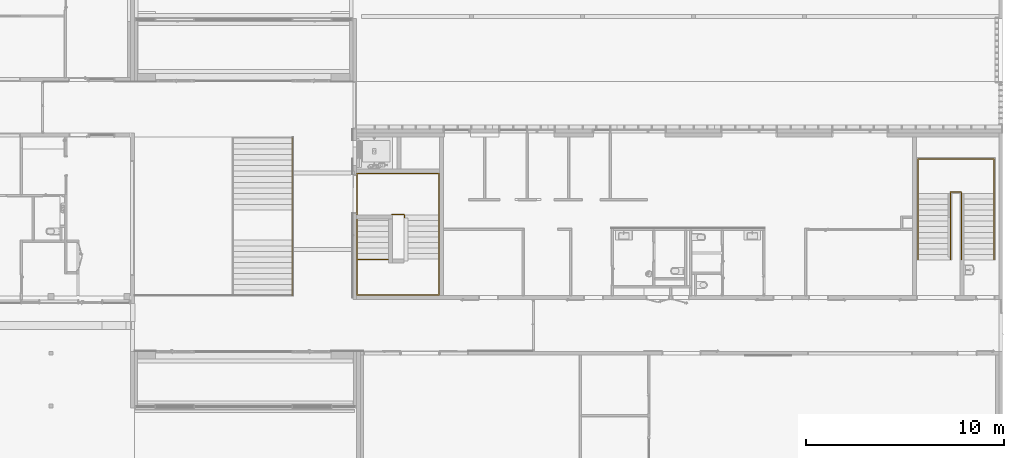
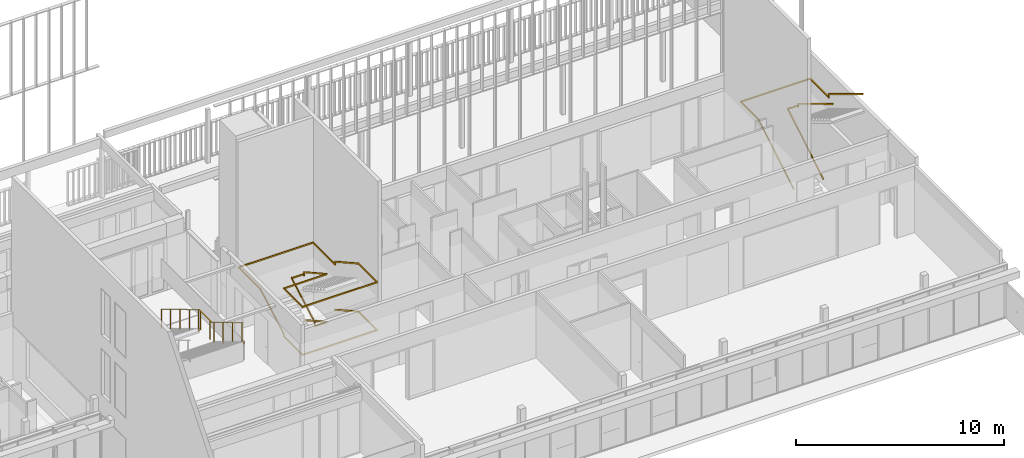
# One storey, part 235 of 240: 4 railings, 3 elements without a shape of their own.
"""IFC2X3 building model written with IfcOpenShell, lengths in centimetres."""

from ifc_helpers import new_model, entity, si_unit, converted_unit, derived_unit, direction, frame, origin, place, context, subcontext, project, spatial, faceted_brep, material, element, aggregate, save


model = new_model("IFC2X3")

# Units and contexts
model_context = context("Model", 3, precision=0.001, world=origin(), true_north=direction((6.12303176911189e-17, 1.0)))
body_context = subcontext(model_context, "Body", "Model", "MODEL_VIEW")
ifc_project = project(units=[si_unit("LENGTHUNIT", "METRE", prefix="CENTI"), si_unit("AREAUNIT", "SQUARE_METRE"), si_unit("VOLUMEUNIT", "CUBIC_METRE"), converted_unit("PLANEANGLEUNIT", "DEGREE", entity("IfcRatioMeasure", 0.0174532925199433), si_unit("PLANEANGLEUNIT", "RADIAN"), dimensions=[0, 0, 0, 0, 0, 0, 0]), si_unit("MASSUNIT", "GRAM", prefix="KILO"), derived_unit("MASSDENSITYUNIT", [(si_unit("MASSUNIT", "GRAM", prefix="KILO"), 1), (si_unit("LENGTHUNIT", "METRE"), -3)]), si_unit("TIMEUNIT", "SECOND"), si_unit("FREQUENCYUNIT", "HERTZ"), si_unit("THERMODYNAMICTEMPERATUREUNIT", "DEGREE_CELSIUS"), derived_unit("THERMALTRANSMITTANCEUNIT", [(si_unit("MASSUNIT", "GRAM", prefix="KILO"), 1), (si_unit("THERMODYNAMICTEMPERATUREUNIT", "KELVIN"), -1), (si_unit("TIMEUNIT", "SECOND"), -3)]), derived_unit("VOLUMETRICFLOWRATEUNIT", [(si_unit("LENGTHUNIT", "METRE"), 3), (si_unit("TIMEUNIT", "SECOND"), -1)]), si_unit("ELECTRICCURRENTUNIT", "AMPERE"), si_unit("ELECTRICVOLTAGEUNIT", "VOLT"), si_unit("POWERUNIT", "WATT"), si_unit("FORCEUNIT", "NEWTON", prefix="KILO"), si_unit("ILLUMINANCEUNIT", "LUX"), si_unit("LUMINOUSFLUXUNIT", "LUMEN"), si_unit("LUMINOUSINTENSITYUNIT", "CANDELA"), derived_unit("USERDEFINED", [(si_unit("MASSUNIT", "GRAM", prefix="KILO"), -1), (si_unit("LENGTHUNIT", "METRE"), -2), (si_unit("TIMEUNIT", "SECOND"), 3), (si_unit("LUMINOUSFLUXUNIT", "LUMEN"), 1)]), derived_unit("LINEARVELOCITYUNIT", [(si_unit("LENGTHUNIT", "METRE"), 1), (si_unit("TIMEUNIT", "SECOND"), -1)]), si_unit("PRESSUREUNIT", "PASCAL"), derived_unit("USERDEFINED", [(si_unit("LENGTHUNIT", "METRE"), -2), (si_unit("MASSUNIT", "GRAM", prefix="KILO"), 1), (si_unit("TIMEUNIT", "SECOND"), -2)])], contexts=[model_context])

# Site, building, storey
site_placement = place(None, frame((-2781.94577612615, 7442.24238424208, 0.0)))
site = spatial("IfcSite", under=ifc_project, at=site_placement, Name="Default", CompositionType="ELEMENT")
building_placement = place(site_placement, origin())
building = spatial("IfcBuilding", under=site, at=building_placement, CompositionType="ELEMENT")
storey_placement = place(building_placement, origin())
storey = spatial("IfcBuildingStorey", under=building, at=storey_placement, Name="N00 - COO", CompositionType="ELEMENT", Elevation=0.0)

# Stair, railings
stair_1_placement = place(building_placement, origin())
stair_1 = element("IfcStair", 1, at=stair_1_placement, inside=storey, Name="Escalier coulé sur place:Escalier", ObjectType="Escalier coulé sur place:Monobloc", ShapeType="NOTDEFINED")
railing_1_placement = place(stair_1_placement, frame((-820.299882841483, -1730.07903364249, 97.982408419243)))
railing_1 = element("IfcRailing", 2, at=railing_1_placement, Name="Garde-corps:Garde-corps 1", ObjectType="Garde-corps:Garde-corps 1", PredefinedType="NOTDEFINED", context=body_context, shape_type="Brep", body=[
    faceted_brep([(384.92, 0.0, 430.897591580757), (384.92, 0.0, 422.0), (390.0, 0.0, 422.0), (390.0, 0.0, 430.897591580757), (384.920000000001, 332.19, 230.634477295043), (384.920000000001, 324.57, 226.330657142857), (390.0, 324.57, 226.330657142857), (390.0, 332.19, 230.634477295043), (384.920000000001, 324.570000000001, 203.837591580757), (384.920000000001, 332.190000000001, 211.457591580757), (384.920000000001, 505.920000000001, 211.457591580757), (384.920000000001, 505.920000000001, 203.837591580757), (390.0, 324.570000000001, 203.837591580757), (390.0, 511.0, 203.837591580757), (390.0, 332.190000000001, 211.457591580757), (390.0, 511.0, 211.457591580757), (5.08000000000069, 505.920000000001, 211.457591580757), (5.08000000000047, 505.920000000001, 203.837591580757), (0.0, 511.0, 203.837591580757), (0.0, 511.0, 211.457591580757), (5.08000000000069, 336.0, 211.457591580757), (5.08000000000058, 338.119227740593, 203.837591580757), (0.0, 338.119227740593, 203.837591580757), (0.0, 336.0, 211.457591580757), (5.08000000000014, 0.0, 8.89759158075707), (0.0, 0.0, 8.89759158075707), (0.0, 0.0, 0.0), (5.08000000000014, 0.0, 0.0)], [[[0, 1, 2, 3]], [[1, 0, 4, 5]], [[2, 1, 5, 6]], [[3, 2, 6, 7]], [[0, 3, 7, 4]], [[8, 9, 10, 11]], [[12, 8, 11, 13]], [[14, 12, 13, 15]], [[9, 14, 15, 10]], [[11, 10, 16, 17]], [[13, 11, 17, 18]], [[15, 13, 18, 19]], [[10, 15, 19, 16]], [[17, 16, 20, 21]], [[18, 17, 21, 22]], [[19, 18, 22, 23]], [[16, 19, 23, 20]], [[24, 25, 26, 27]], [[21, 20, 24, 27]], [[22, 21, 27, 26]], [[23, 22, 26, 25]], [[20, 23, 25, 24]], [[5, 4, 9, 8]], [[6, 5, 8, 12]], [[7, 6, 12, 14]], [[4, 7, 14, 9]]]),
])
railing_2_placement = place(stair_1_placement, frame((-655.379882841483, -1730.07903364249, 97.982408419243)))
railing_2 = element("IfcRailing", 3, at=railing_2_placement, Name="Garde-corps:Garde-corps 1", ObjectType="Garde-corps:Garde-corps 1", PredefinedType="NOTDEFINED", context=body_context, shape_type="Brep", body=[
    faceted_brep([(60.160000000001, 0.0, 430.897591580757), (55.0800000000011, 0.0, 430.897591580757), (55.0800000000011, 0.0, 422.0), (60.160000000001, 0.0, 422.0), (60.1600000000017, 339.729999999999, 226.088934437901), (55.0800000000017, 339.729999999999, 226.088934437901), (55.0800000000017, 332.109999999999, 221.785114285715), (60.1600000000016, 332.109999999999, 221.785114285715), (60.1600000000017, 339.729999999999, 203.837591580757), (60.1600000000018, 332.109999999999, 203.837591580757), (55.0800000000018, 332.109999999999, 203.837591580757), (55.0800000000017, 339.729999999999, 203.837591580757)], [[[0, 1, 2, 3]], [[1, 0, 4, 5]], [[2, 1, 5, 6]], [[3, 2, 6, 7]], [[0, 3, 7, 4]], [[8, 9, 10, 11]], [[5, 4, 8, 11]], [[6, 5, 11, 10]], [[7, 6, 10, 9]], [[4, 7, 9, 8]]]),
    faceted_brep([(57.6200000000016, 346.079999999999, 211.457591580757), (57.6200000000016, 341.0, 211.457591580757), (57.6200000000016, 341.0, 203.837591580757), (57.6200000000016, 346.079999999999, 203.837591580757), (0.0, 346.080000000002, 211.457591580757), (5.08000000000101, 341.0, 211.457591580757), (5.08000000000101, 341.0, 203.837591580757), (0.0, 346.080000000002, 203.837591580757), (0.0, 0.0, 8.89759158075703), (0.0, 0.0, 0.0), (5.08000000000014, 0.0, 0.0), (5.08000000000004, 0.0, 8.89759158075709), (5.08000000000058, 336.0, 211.457591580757), (0.0, 336.0, 211.457591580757), (5.08000000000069, 338.119227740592, 203.837591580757), (0.0, 338.119227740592, 203.837591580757)], [[[0, 1, 2, 3]], [[1, 0, 4, 5]], [[2, 1, 5, 6]], [[3, 2, 6, 7]], [[0, 3, 7, 4]], [[8, 9, 10, 11]], [[12, 13, 8, 11]], [[14, 12, 11, 10]], [[15, 14, 10, 9]], [[13, 15, 9, 8]], [[5, 4, 13, 12]], [[6, 5, 12, 14]], [[7, 6, 14, 15]], [[4, 7, 15, 13]]]),
])
aggregate(stair_1, [railing_1, railing_2])

# Stair, railing
stair_2_placement = place(storey_placement, origin())
stair_2 = element("IfcStair", 4, at=stair_2_placement, inside=storey, Name="Escalier coulé sur place:Escalier", ObjectType="Escalier coulé sur place:Monobloc", ShapeType="NOTDEFINED")
ifc_material = material(Name="Métal - Acier inoxydable, poli")
railing_3_placement = place(stair_2_placement, frame((-3975.03987968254, -1910.47903364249, 16.8799999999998)))
railing_3 = element("IfcRailing", 5, at=railing_3_placement, material=ifc_material, Name="Garde-corps:Garde corps 1A0cmHT", ObjectType="Garde-corps:Garde corps 1A0cmHT", PredefinedType="NOTDEFINED", context=body_context, shape_type="Brep", body=[
    faceted_brep([(0.0, 18.7999999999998, 388.24), (0.0, 18.7999999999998, 503.443597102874), (0.0, 20.0, 502.720168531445), (0.0, 20.0, 388.24), (5.0, 18.7999999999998, 388.24), (5.0, 20.0, 388.24), (5.0, 20.0, 502.720168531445), (5.0, 18.7999999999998, 503.443597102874)], [[[0, 1, 2, 3]], [[4, 5, 6, 7]], [[3, 5, 4, 0]], [[2, 6, 5, 3]], [[1, 7, 6, 2]], [[0, 4, 7, 1]]]),
    faceted_brep([(0.0, 108.8, 337.6), (0.0, 108.8, 449.186454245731), (0.0, 110.0, 448.463025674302), (0.0, 110.0, 337.6), (5.0, 108.8, 337.6), (5.0, 110.0, 337.6), (5.0, 110.0, 448.463025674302), (5.0, 108.8, 449.186454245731)], [[[0, 1, 2, 3]], [[4, 5, 6, 7]], [[3, 5, 4, 0]], [[2, 6, 5, 3]], [[1, 7, 6, 2]], [[0, 4, 7, 1]]]),
    faceted_brep([(0.0, 198.8, 270.08), (0.0, 198.8, 394.929311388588), (0.0, 200.0, 394.205882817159), (0.0, 200.0, 270.08), (5.0, 198.8, 270.08), (5.0, 200.0, 270.08), (5.0, 200.0, 394.205882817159), (5.0, 198.8, 394.929311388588)], [[[0, 1, 2, 3]], [[4, 5, 6, 7]], [[3, 5, 4, 0]], [[2, 6, 5, 3]], [[1, 7, 6, 2]], [[0, 4, 7, 1]]]),
    faceted_brep([(0.0, 288.8, 219.44), (0.0, 288.8, 340.672168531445), (0.0, 290.0, 339.948739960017), (0.0, 290.0, 219.44), (5.0, 288.8, 219.44), (5.0, 290.0, 219.44), (5.0, 290.0, 339.948739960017), (5.0, 288.8, 340.672168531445)], [[[0, 1, 2, 3]], [[4, 5, 6, 7]], [[3, 5, 4, 0]], [[2, 6, 5, 3]], [[1, 7, 6, 2]], [[0, 4, 7, 1]]]),
    faceted_brep([(0.0, 324.839516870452, 219.44), (0.0, 324.839516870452, 328.94), (0.0, 326.039516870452, 328.94), (0.0, 326.039516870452, 219.44), (5.0, 324.839516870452, 219.44), (5.0, 326.039516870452, 219.44), (5.0, 326.039516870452, 328.94), (5.0, 324.839516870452, 328.94)], [[[0, 1, 2, 3]], [[4, 5, 6, 7]], [[3, 5, 4, 0]], [[2, 6, 5, 3]], [[1, 7, 6, 2]], [[0, 4, 7, 1]]]),
    faceted_brep([(0.0, 414.839516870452, 219.44), (0.0, 414.839516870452, 328.94), (0.0, 416.039516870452, 328.94), (0.0, 416.039516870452, 219.44), (5.0, 414.839516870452, 219.44), (5.0, 416.039516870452, 219.44), (5.0, 416.039516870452, 328.94), (5.0, 414.839516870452, 328.94)], [[[0, 1, 2, 3]], [[4, 5, 6, 7]], [[3, 5, 4, 0]], [[2, 6, 5, 3]], [[1, 7, 6, 2]], [[0, 4, 7, 1]]]),
    faceted_brep([(0.0, 433.879033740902, 202.56), (0.0, 433.879033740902, 328.012168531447), (0.0, 435.079033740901, 327.288739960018), (0.0, 435.079033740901, 202.56), (5.0, 433.879033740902, 202.56), (5.0, 435.079033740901, 202.56), (5.0, 435.079033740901, 327.288739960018), (5.0, 433.879033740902, 328.012168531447)], [[[0, 1, 2, 3]], [[4, 5, 6, 7]], [[3, 5, 4, 0]], [[2, 6, 5, 3]], [[1, 7, 6, 2]], [[0, 4, 7, 1]]]),
    faceted_brep([(0.0, 523.879033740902, 151.92), (0.0, 523.879033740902, 273.755025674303), (0.0, 525.079033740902, 273.031597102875), (0.0, 525.079033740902, 151.92), (5.0, 523.879033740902, 151.92), (5.0, 525.079033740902, 151.92), (5.0, 525.079033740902, 273.031597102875), (5.0, 523.879033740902, 273.755025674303)], [[[0, 1, 2, 3]], [[4, 5, 6, 7]], [[3, 5, 4, 0]], [[2, 6, 5, 3]], [[1, 7, 6, 2]], [[0, 4, 7, 1]]]),
    faceted_brep([(0.0, 613.879033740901, 101.28), (0.0, 613.879033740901, 219.49788281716), (0.0, 615.079033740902, 218.774454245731), (0.0, 615.079033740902, 101.28), (5.0, 613.879033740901, 101.28), (5.0, 615.079033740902, 101.28), (5.0, 615.079033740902, 218.774454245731), (5.0, 613.879033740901, 219.49788281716)], [[[0, 1, 2, 3]], [[4, 5, 6, 7]], [[3, 5, 4, 0]], [[2, 6, 5, 3]], [[1, 7, 6, 2]], [[0, 4, 7, 1]]]),
    faceted_brep([(0.0, 703.879033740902, 50.64), (0.0, 703.879033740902, 165.240739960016), (0.0, 705.079033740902, 164.517311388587), (0.0, 705.079033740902, 50.64), (5.0, 703.879033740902, 50.64), (5.0, 705.079033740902, 50.64), (5.0, 705.079033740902, 164.517311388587), (5.0, 703.879033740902, 165.240739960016)], [[[0, 1, 2, 3]], [[4, 5, 6, 7]], [[3, 5, 4, 0]], [[2, 6, 5, 3]], [[1, 7, 6, 2]], [[0, 4, 7, 1]]]),
    faceted_brep([(0.0, 793.879033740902, 0.0), (0.0, 793.879033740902, 110.983597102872), (0.0, 795.079033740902, 110.260168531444), (0.0, 795.079033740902, 0.0), (5.0, 793.879033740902, 0.0), (5.0, 795.079033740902, 0.0), (5.0, 795.079033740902, 110.260168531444), (5.0, 793.879033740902, 110.983597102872)], [[[0, 1, 2, 3]], [[4, 5, 6, 7]], [[3, 5, 4, 0]], [[2, 6, 5, 3]], [[1, 7, 6, 2]], [[0, 4, 7, 1]]]),
    faceted_brep([(0.0, 431.879033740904, 202.56), (0.0, 431.879033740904, 219.440000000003), (0.0, 433.079033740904, 219.440000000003), (0.0, 433.079033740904, 202.56), (5.0, 431.879033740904, 202.56), (5.0, 433.079033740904, 202.56), (5.0, 433.079033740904, 219.440000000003), (5.0, 431.879033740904, 219.440000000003)], [[[0, 1, 2, 3]], [[4, 5, 6, 7]], [[3, 5, 4, 0]], [[2, 6, 5, 3]], [[1, 7, 6, 2]], [[0, 4, 7, 1]]]),
    faceted_brep([(0.0, 0.0, 388.24), (0.0, 0.0, 404.999428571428), (0.0, 1.19999999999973, 404.999428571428), (0.0, 1.19999999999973, 388.24), (5.0, 0.0, 388.24), (5.0, 1.19999999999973, 388.24), (5.0, 1.19999999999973, 404.999428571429), (5.0, 0.0, 404.999428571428)], [[[0, 1, 2, 3]], [[4, 5, 6, 7]], [[3, 5, 4, 0]], [[2, 6, 5, 3]], [[1, 7, 6, 2]], [[0, 4, 7, 1]]]),
    faceted_brep([(0.0, 795.679033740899, 0.0), (0.0, 795.679033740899, 0.120571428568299), (0.0, 796.879033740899, 0.120571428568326), (0.0, 796.879033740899, 0.0), (5.0, 795.679033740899, 0.0), (5.0, 796.879033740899, 0.0), (5.0, 796.879033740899, 0.12057142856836), (5.0, 795.679033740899, 0.120571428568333)], [[[0, 1, 2, 3]], [[4, 5, 6, 7]], [[3, 5, 4, 0]], [[2, 6, 5, 3]], [[1, 7, 6, 2]], [[0, 4, 7, 1]]]),
    faceted_brep([(5.0, 796.4790337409, 109.41616853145), (0.0, 796.4790337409, 109.41616853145), (0.0, 796.4790337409, 110.583831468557), (5.0, 796.4790337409, 110.583831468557), (5.0, 432.339976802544, 328.939999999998), (0.0, 432.339976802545, 328.939999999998), (0.0, 432.618090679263, 329.939999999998), (5.0, 308.260943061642, 328.94), (0.0, 308.260943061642, 328.94), (0.0, 308.53905693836, 329.94), (5.0, 0.400000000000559, 514.536168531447), (5.0, 0.400000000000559, 515.703831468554), (0.0, 0.400000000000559, 515.703831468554), (0.0, 0.400000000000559, 514.536168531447), (5.0, 432.618090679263, 329.939999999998), (5.0, 308.53905693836, 329.94)], [[[0, 1, 2, 3]], [[1, 0, 4, 5]], [[2, 1, 5, 6]], [[5, 4, 7, 8]], [[6, 5, 8, 9]], [[10, 11, 12, 13]], [[8, 7, 10, 13]], [[9, 8, 13, 12]], [[3, 2, 6, 14]], [[0, 3, 14, 4]], [[14, 6, 9, 15]], [[4, 14, 15, 7]], [[15, 9, 12, 11]], [[7, 15, 11, 10]]]),
])
aggregate(stair_2, [railing_3])

stair_3_placement = place(building_placement, origin())
stair_3 = element("IfcStair", 6, at=stair_3_placement, inside=storey, Name="Escalier coulé sur place:Escalier", ObjectType="Escalier coulé sur place:Monobloc", ShapeType="NOTDEFINED")
railing_4_placement = place(stair_3_placement, frame((-3647.99987968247, -1910.07903364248, 96.9028550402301)))
railing_4 = element("IfcRailing", 7, at=railing_4_placement, Name="Garde-corps:Garde-corps 1", ObjectType="Garde-corps:Garde-corps 1", PredefinedType="NOTDEFINED", context=body_context, shape_type="Brep", body=[
    faceted_brep([(413.619996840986, 408.0, 8.72677458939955), (418.699996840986, 408.0, 8.72677458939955), (418.699996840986, 408.0, 0.0), (413.619996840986, 408.0, 0.0), (413.619996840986, 184.0, 133.763811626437), (418.699996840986, 184.0, 133.763811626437), (418.699996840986, 182.017247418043, 126.143811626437), (413.619996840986, 182.017247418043, 126.143811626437), (413.619996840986, 5.08000000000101, 133.763811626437), (418.699996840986, 0.0, 133.763811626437), (418.699996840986, 0.0, 126.143811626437), (413.619996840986, 5.08000000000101, 126.143811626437), (5.07999999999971, 5.08000000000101, 133.763811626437), (0.0, 0.0, 133.763811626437), (0.0, 0.0, 126.143811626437), (5.07999999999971, 5.08000000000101, 126.143811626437), (5.07999999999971, 180.190000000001, 133.763811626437), (0.0, 180.190000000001, 133.763811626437), (0.0, 187.81, 126.143811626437), (5.07999999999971, 187.81, 126.143811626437), (5.07999999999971, 180.190000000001, 147.26669522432), (0.0, 180.190000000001, 147.26669522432), (0.0, 187.810000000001, 142.793412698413), (5.07999999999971, 187.810000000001, 142.793412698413), (5.07999999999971, 408.0, 274.430478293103), (0.0, 408.0, 274.430478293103), (0.0, 409.982752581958, 266.810478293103), (5.08000000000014, 409.982752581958, 266.810478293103), (5.07999999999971, 614.920000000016, 274.430478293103), (0.0, 620.0, 274.430478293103), (0.0, 620.0, 266.810478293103), (5.07999999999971, 614.920000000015, 266.810478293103), (413.619996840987, 614.920000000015, 274.430478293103), (418.699996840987, 620.0, 274.430478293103), (418.699996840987, 620.0, 266.810478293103), (413.619996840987, 614.920000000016, 266.810478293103), (413.619996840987, 411.810000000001, 274.430478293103), (418.699996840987, 411.810000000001, 274.430478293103), (418.699996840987, 404.190000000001, 266.810478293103), (413.619996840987, 404.190000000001, 266.810478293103), (413.619996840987, 411.810000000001, 287.933361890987), (418.699996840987, 411.810000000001, 287.933361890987), (418.699996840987, 404.19, 283.460079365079), (413.619996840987, 404.19, 283.460079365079), (413.619996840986, 184.0, 415.09714495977), (418.699996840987, 184.0, 415.09714495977), (418.699996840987, 182.017247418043, 407.47714495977), (413.619996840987, 182.017247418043, 407.47714495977), (413.619996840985, 5.08000000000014, 415.09714495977), (418.699996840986, 0.0, 415.09714495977), (418.699996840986, 0.0, 407.47714495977), (413.619996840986, 5.07999999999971, 407.47714495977), (5.07999999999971, 5.08000000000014, 415.09714495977), (0.0, 0.0, 415.09714495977), (0.0, 0.0, 407.47714495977), (5.07999999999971, 5.08000000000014, 407.47714495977), (5.08000000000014, 178.92, 415.09714495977), (0.0, 184.0, 415.09714495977), (0.0, 184.0, 407.47714495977), (5.07999999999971, 178.920000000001, 407.47714495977), (238.699996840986, 178.92, 415.09714495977), (238.699996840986, 178.92, 407.47714495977), (238.699996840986, 184.0, 407.47714495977), (238.699996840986, 184.0, 415.09714495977)], [[[0, 1, 2, 3]], [[1, 0, 4, 5]], [[2, 1, 5, 6]], [[3, 2, 6, 7]], [[0, 3, 7, 4]], [[5, 4, 8, 9]], [[6, 5, 9, 10]], [[7, 6, 10, 11]], [[4, 7, 11, 8]], [[9, 8, 12, 13]], [[10, 9, 13, 14]], [[11, 10, 14, 15]], [[8, 11, 15, 12]], [[13, 12, 16, 17]], [[14, 13, 17, 18]], [[15, 14, 18, 19]], [[12, 15, 19, 16]], [[17, 16, 20, 21]], [[18, 17, 21, 22]], [[19, 18, 22, 23]], [[16, 19, 23, 20]], [[21, 20, 24, 25]], [[22, 21, 25, 26]], [[23, 22, 26, 27]], [[20, 23, 27, 24]], [[25, 24, 28, 29]], [[26, 25, 29, 30]], [[27, 26, 30, 31]], [[24, 27, 31, 28]], [[29, 28, 32, 33]], [[30, 29, 33, 34]], [[31, 30, 34, 35]], [[28, 31, 35, 32]], [[33, 32, 36, 37]], [[34, 33, 37, 38]], [[35, 34, 38, 39]], [[32, 35, 39, 36]], [[37, 36, 40, 41]], [[38, 37, 41, 42]], [[39, 38, 42, 43]], [[36, 39, 43, 40]], [[41, 40, 44, 45]], [[42, 41, 45, 46]], [[43, 42, 46, 47]], [[40, 43, 47, 44]], [[45, 44, 48, 49]], [[46, 45, 49, 50]], [[47, 46, 50, 51]], [[44, 47, 51, 48]], [[49, 48, 52, 53]], [[50, 49, 53, 54]], [[51, 50, 54, 55]], [[48, 51, 55, 52]], [[53, 52, 56, 57]], [[54, 53, 57, 58]], [[55, 54, 58, 59]], [[52, 55, 59, 56]], [[60, 61, 62, 63]], [[57, 56, 60, 63]], [[58, 57, 63, 62]], [[59, 58, 62, 61]], [[56, 59, 61, 60]]]),
    faceted_brep([(243.779996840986, 178.92, 417.932806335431), (238.699996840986, 178.92, 417.932806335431), (238.699996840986, 178.92, 409.206031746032), (243.779996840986, 178.92, 409.206031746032), (243.779996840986, 406.730000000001, 290.769023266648), (238.699996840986, 406.73, 290.769023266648), (238.699996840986, 399.11, 286.295740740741), (243.779996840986, 399.11, 286.295740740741), (243.779996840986, 406.730000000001, 266.810478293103), (243.779996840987, 399.110000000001, 266.810478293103), (238.699996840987, 399.110000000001, 266.810478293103), (238.699996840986, 406.730000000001, 266.810478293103)], [[[0, 1, 2, 3]], [[1, 0, 4, 5]], [[2, 1, 5, 6]], [[3, 2, 6, 7]], [[0, 3, 7, 4]], [[8, 9, 10, 11]], [[5, 4, 8, 11]], [[6, 5, 11, 10]], [[7, 6, 10, 9]], [[4, 7, 9, 8]]]),
    faceted_brep([(241.239996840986, 413.080000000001, 274.430478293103), (241.239996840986, 408.0, 274.430478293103), (241.239996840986, 408.0, 266.810478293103), (241.239996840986, 413.080000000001, 266.810478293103), (180.0, 413.080000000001, 274.430478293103), (180.0, 413.080000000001, 266.810478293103), (180.0, 408.0, 266.810478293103), (180.0, 408.0, 274.430478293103)], [[[0, 1, 2, 3]], [[4, 5, 6, 7]], [[1, 0, 4, 7]], [[2, 1, 7, 6]], [[3, 2, 6, 5]], [[0, 3, 5, 4]]]),
    faceted_brep([(174.920000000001, 413.080000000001, 277.266139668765), (180.0, 413.080000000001, 277.266139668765), (180.0, 413.080000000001, 268.539365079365), (174.920000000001, 413.080000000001, 268.539365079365), (174.92, 185.27, 150.102356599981), (180.0, 185.270000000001, 150.102356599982), (180.0, 192.890000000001, 145.629074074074), (174.92, 192.890000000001, 145.629074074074), (174.92, 185.27, 126.143811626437), (174.92, 192.89, 126.143811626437), (180.0, 192.89, 126.143811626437), (180.0, 185.27, 126.143811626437)], [[[0, 1, 2, 3]], [[1, 0, 4, 5]], [[2, 1, 5, 6]], [[3, 2, 6, 7]], [[0, 3, 7, 4]], [[8, 9, 10, 11]], [[5, 4, 8, 11]], [[6, 5, 11, 10]], [[7, 6, 10, 9]], [[4, 7, 9, 8]]]),
    faceted_brep([(177.46, 178.92, 133.763811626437), (177.46, 184.0, 133.763811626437), (177.46, 184.0, 126.143811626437), (177.46, 178.92, 126.143811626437), (238.699996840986, 178.92, 133.763811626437), (238.699996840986, 178.920000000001, 126.143811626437), (238.699996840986, 184.0, 126.143811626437), (238.699996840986, 184.0, 133.763811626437)], [[[0, 1, 2, 3]], [[4, 5, 6, 7]], [[1, 0, 4, 7]], [[2, 1, 7, 6]], [[3, 2, 6, 5]], [[0, 3, 5, 4]]]),
    faceted_brep([(243.779996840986, 178.92, 136.599473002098), (238.699996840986, 178.92, 136.599473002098), (238.699996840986, 178.92, 127.872698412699), (243.779996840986, 178.92, 127.872698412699), (243.779996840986, 408.0, 8.72677458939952), (243.779996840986, 408.0, 0.0), (238.699996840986, 408.0, 0.0), (238.699996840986, 408.0, 8.72677458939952)], [[[0, 1, 2, 3]], [[4, 5, 6, 7]], [[1, 0, 4, 7]], [[2, 1, 7, 6]], [[3, 2, 6, 5]], [[0, 3, 5, 4]]]),
])
aggregate(stair_3, [railing_4])

save(model, "model.ifc")
